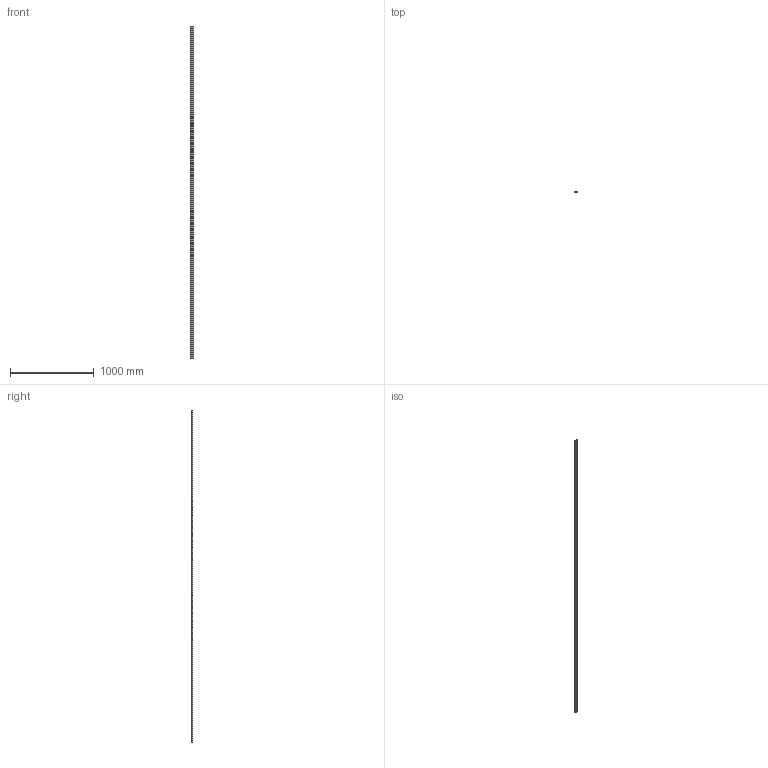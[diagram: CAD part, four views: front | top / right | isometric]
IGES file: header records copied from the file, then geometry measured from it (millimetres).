
Start section: 3D InterOp IGES (v. 2019 1.0.2), Spatial Corp. Copyright (c) 1999-2017.
Global section: file name: SS NM44 3956.igs; native system: Spatial Corp.; preprocessor: 3D InterOp GENERIC/IGES 3.0; author: Noname; organization: Noname; date: 20220628.112207; units: millimetre
Bounding box: 43.61 x 15.5 x 3956 mm (x, y, z)
Surface area: 479021.5 mm2 (no closed solid volume)
Topology: 0 solids, 0 shells, 256 faces, 1260 edges, 1260 vertices
Faces by surface type: revolution 194, extrusion 62
